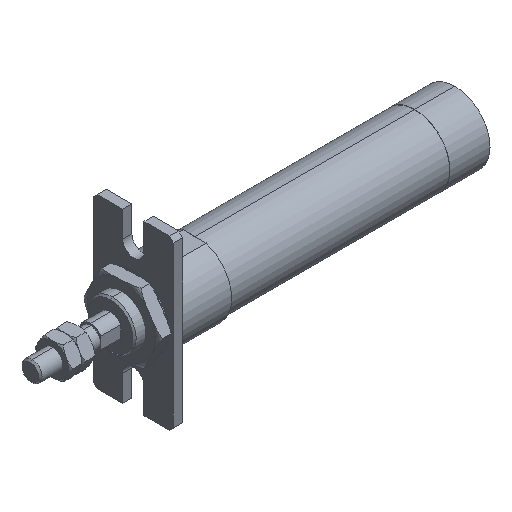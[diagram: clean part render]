
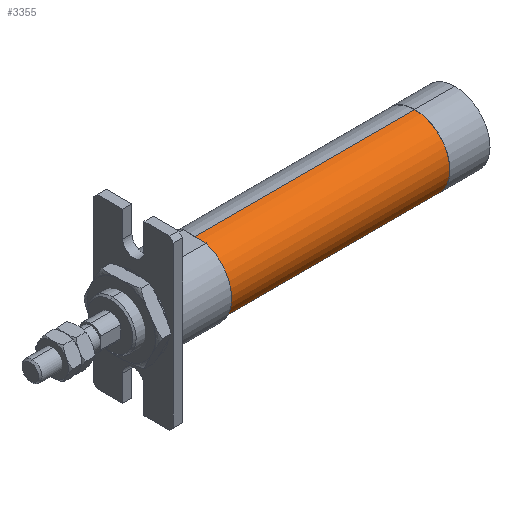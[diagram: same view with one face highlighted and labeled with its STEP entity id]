
A CAD part, isometric view. The second image highlights one B-rep face of the part: STEP entity #3355.
In plain terms, the highlighted cylindrical face has radius 8.7 mm (diameter 17.4 mm), a partial arc.
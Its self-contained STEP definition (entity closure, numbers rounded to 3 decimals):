
#19 = DIRECTION ( 'NONE',  ( -1., 0., 0. ) ) ;
#36 = FACE_OUTER_BOUND ( 'NONE', #1993, .T. ) ;
#156 = CARTESIAN_POINT ( 'NONE',  ( 0., 0., 0. ) ) ;
#279 = DIRECTION ( 'NONE',  ( 0., 0., 1. ) ) ;
#317 = CIRCLE ( 'NONE', #3475, 8.7 ) ;
#564 = EDGE_CURVE ( 'NONE', #3634, #3282, #2030, .T. ) ;
#571 = CARTESIAN_POINT ( 'NONE',  ( 96., 0., 0. ) ) ;
#630 = VERTEX_POINT ( 'NONE', #880 ) ;
#736 = ORIENTED_EDGE ( 'NONE', *, *, #1129, .T. ) ;
#847 = CARTESIAN_POINT ( 'NONE',  ( 0., 0., -8.7 ) ) ;
#880 = CARTESIAN_POINT ( 'NONE',  ( 96., 0., 8.7 ) ) ;
#980 = LINE ( 'NONE', #847, #1315 ) ;
#1020 = CARTESIAN_POINT ( 'NONE',  ( 0., 0., 8.7 ) ) ;
#1055 = DIRECTION ( 'NONE',  ( -1., 0., 0. ) ) ;
#1096 = VERTEX_POINT ( 'NONE', #2541 ) ;
#1129 = EDGE_CURVE ( 'NONE', #1096, #630, #317, .T. ) ;
#1187 = VECTOR ( 'NONE', #19, 1000. ) ;
#1315 = VECTOR ( 'NONE', #2144, 1000. ) ;
#1503 = DIRECTION ( 'NONE',  ( -1., 0., 0. ) ) ;
#1596 = AXIS2_PLACEMENT_3D ( 'NONE', #2744, #1503, #279 ) ;
#1816 = CYLINDRICAL_SURFACE ( 'NONE', #2760, 8.7 ) ;
#1993 = EDGE_LOOP ( 'NONE', ( #2300, #736, #1998, #3699 ) ) ;
#1998 = ORIENTED_EDGE ( 'NONE', *, *, #2728, .T. ) ;
#2030 = CIRCLE ( 'NONE', #1596, 8.7 ) ;
#2144 = DIRECTION ( 'NONE',  ( -1., 0., 0. ) ) ;
#2300 = ORIENTED_EDGE ( 'NONE', *, *, #3509, .F. ) ;
#2437 = DIRECTION ( 'NONE',  ( 0., 0., 1. ) ) ;
#2541 = CARTESIAN_POINT ( 'NONE',  ( 96., 0., -8.7 ) ) ;
#2728 = EDGE_CURVE ( 'NONE', #630, #3282, #3377, .T. ) ;
#2744 = CARTESIAN_POINT ( 'NONE',  ( 41., 0., 0. ) ) ;
#2760 = AXIS2_PLACEMENT_3D ( 'NONE', #156, #2819, #2437 ) ;
#2819 = DIRECTION ( 'NONE',  ( -1., 0., 0. ) ) ;
#3005 = CARTESIAN_POINT ( 'NONE',  ( 41., 0., 8.7 ) ) ;
#3217 = DIRECTION ( 'NONE',  ( 0., 0., 1. ) ) ;
#3282 = VERTEX_POINT ( 'NONE', #3005 ) ;
#3355 = ADVANCED_FACE ( 'NONE', ( #36 ), #1816, .T. ) ;
#3377 = LINE ( 'NONE', #1020, #1187 ) ;
#3475 = AXIS2_PLACEMENT_3D ( 'NONE', #571, #1055, #3217 ) ;
#3509 = EDGE_CURVE ( 'NONE', #1096, #3634, #980, .T. ) ;
#3634 = VERTEX_POINT ( 'NONE', #3776 ) ;
#3699 = ORIENTED_EDGE ( 'NONE', *, *, #564, .F. ) ;
#3776 = CARTESIAN_POINT ( 'NONE',  ( 41., 0., -8.7 ) ) ;
